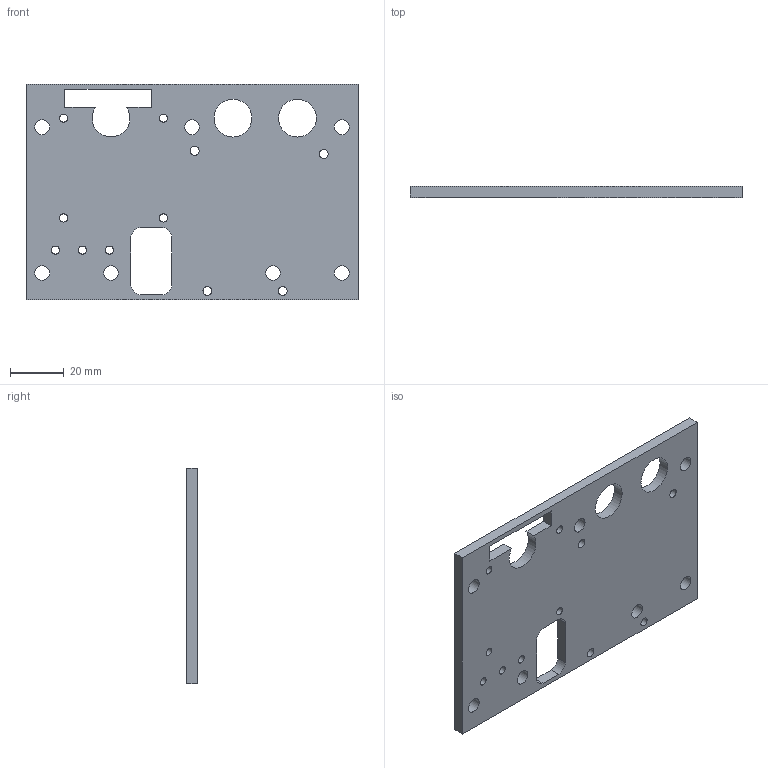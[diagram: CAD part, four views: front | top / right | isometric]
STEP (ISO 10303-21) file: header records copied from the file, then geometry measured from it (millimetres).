
FILE_DESCRIPTION(/* description */ ('STEP AP242 Edition 2','CAx-IF Rec.Pracs.---Representation and Presentation of Product Manufacturing Information (PMI)---4.0---2014-10-13','CAx-IF Rec.Pracs.---3D Tessellated Geometry---0.4---2014-09-14','2;1','CAx-IF Rec.Pracs.---User Defined Attributes---1.5---2016-08-15'),/* implementation_level */ '2;1');
FILE_NAME(/* name */ 'Assem2h - Part2',/* time_stamp */ '2025-12-01T14:50:28Z',/* author */ (''),/* organization */ (''),/* preprocessor_version */ 'ST-DEVELOPER v20',/* originating_system */ 'ONSHAPE BY PTC INC, 1.207',/* authorisation */ ' ');
FILE_SCHEMA (('AP242_MANAGED_MODEL_BASED_3D_ENGINEERING_MIM_LF { 1 0 10303 442 3 1 4 }'));
Length unit declared in the file: metre
Products named in the file (1): Part2
Bounding box: 123 x 4 x 80 mm (x, y, z)
Volume: 34282 mm3; surface area: 20711.3 mm2
Topology: 1 solids, 1 shells, 40 faces, 114 edges, 76 vertices
Faces by surface type: cylinder 25, plane 15
Full cylindrical faces by diameter (mm): 3 x7, 3.248 x1, 3.3 x1, 3.307 x1, 3.424 x1, 5.5 x7, 14 x2
Entity records: 1338 total; most frequent: DIRECTION 226, CARTESIAN_POINT 211, ORIENTED_EDGE 188, EDGE_LOOP 104, FACE_BOUND 104, EDGE_CURVE 94, AXIS2_PLACEMENT_3D 91, VERTEX_POINT 76
